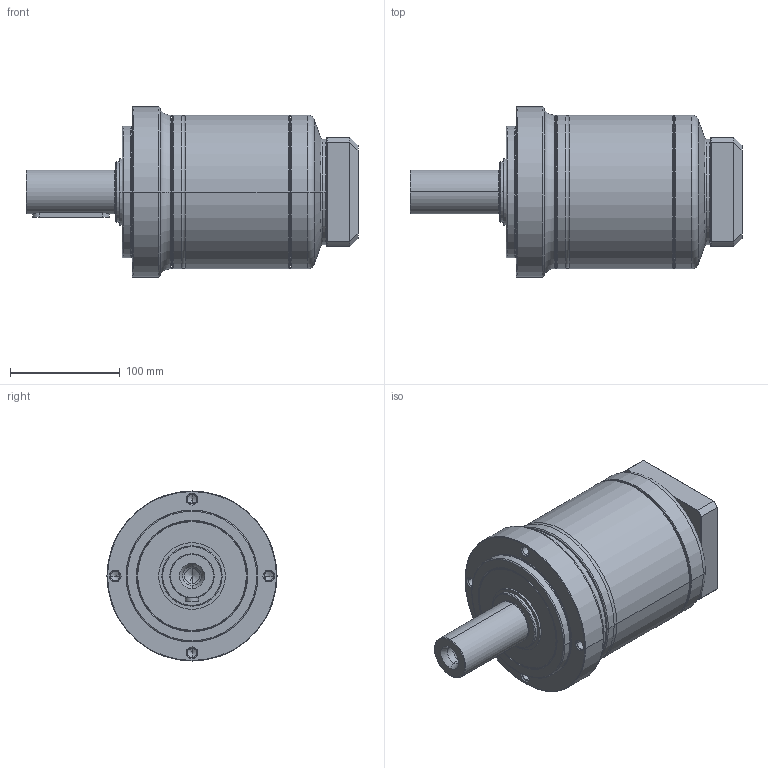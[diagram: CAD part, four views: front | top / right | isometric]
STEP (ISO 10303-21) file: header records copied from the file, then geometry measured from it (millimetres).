
FILE_DESCRIPTION((''),'2;1');
FILE_NAME('PE2-155_2ST_24-P0411500101_ASM','2017-06-03T',('d01943'),(''),'PRO/ENGINEER BY PARAMETRIC TECHNOLOGY CORPORATION, 2008410','PRO/ENGINEER BY PARAMETRIC TECHNOLOGY CORPORATION, 2008410','');
FILE_SCHEMA(('CONFIG_CONTROL_DESIGN'));
Length unit declared in the file: millimetre
Products named in the file (9): P1323510001; P0251500001; P1324500101; P0350501001; P0941501001; P0503500008; P0411500101; P1702500001; PE2-155_2ST_24-P0411500101_ASM
Assembly tree (8 placements, depth 2):
  PE2-155_2ST_24-P0411500101_ASM
    P1323510001
    P0251500001
    P1324500101
    P0350501001
    P0941501001
    P0503500008
    P0411500101
    P1702500001
Bounding box: 302.5 x 155 x 155 mm (x, y, z)
Volume: 2162513 mm3; surface area: 324103.6 mm2
Topology: 8 solids, 8 shells, 479 faces, 1047 edges, 598 vertices
Faces by surface type: cone 142, cylinder 142, torus 102, plane 77, bspline 16
Entity records: 17675 total; most frequent: CARTESIAN_POINT 6949, DIRECTION 2451, ORIENTED_EDGE 2030, AXIS2_PLACEMENT_3D 1053, EDGE_CURVE 1015, VERTEX_POINT 598, CIRCLE 573, EDGE_LOOP 541
